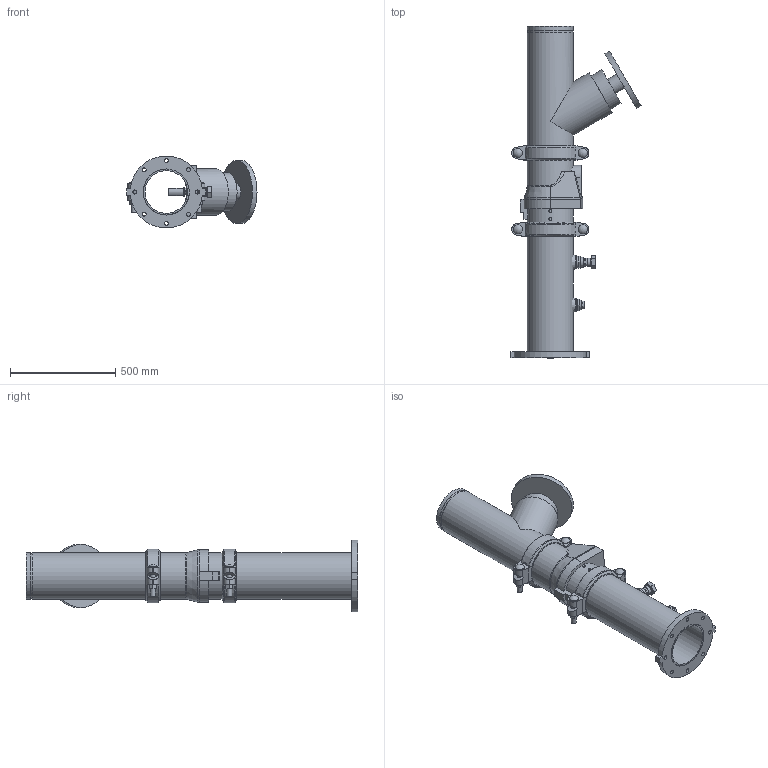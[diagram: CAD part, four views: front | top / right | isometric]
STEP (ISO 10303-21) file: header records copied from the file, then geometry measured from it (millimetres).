
FILE_DESCRIPTION(/* description */ ('VIC DVI PUMP DROP VERT S/383 (OGSxFLG) (S/924-1.25)','CAx-IF Rec.Pracs.---Representation and Presentation of Product Manufacturing Information (PMI)---4.0---2014-10-13'),/* implementation_level */ '2;1');
FILE_NAME(/* name */ 'C:\Users\Public\Documents\Victaulic.Temp\A849\Victaulic_IPS_Vertical DVI_CL 150_Series 383 (OGSxFLG)_924 (1.25)_08.0x08.0 (200x200).stp',/* time_stamp */ '2022-07-25T11:41:49+02:00',/* author */ ('Vjadhav'),/* organization */ ('Victaulic'),/* preprocessor_version */ 'ST-DEVELOPER v18',/* originating_system */ 'Autodesk Inventor 2020',/* authorisation */ '');
FILE_SCHEMA (('AP242_MANAGED_MODEL_BASED_3D_ENGINEERING_MIM_LF { 1 0 10303 442 1 1 4 }'));
Length unit declared in the file: inch
Products named in the file (8): 383_924 (1.25)-08.0x08.0; 741-08.0; Pipe-08.0x08.0; 177N-08.0; 789-08.0; 779-08.0; 924-04.0x01.25; 923-04.0x0.75
Assembly tree (8 placements, depth 2):
  383_924 (1.25)-08.0x08.0
    741-08.0
    Pipe-08.0x08.0
    177N-08.0  x2
    789-08.0
    779-08.0
    924-04.0x01.25
    923-04.0x0.75
Bounding box: 619.12 x 1579.63 x 341.59 mm (x, y, z)
Volume: 26024606 mm3; surface area: 3162485.5 mm2
Topology: 8 solids, 9 shells, 425 faces, 1108 edges, 746 vertices
Faces by surface type: plane 250, cylinder 142, torus 14, cone 13, sphere 4, bspline 2
Full cylindrical faces by diameter (mm): 13.716 x4, 19.05 x8, 21.336 x1, 23.774 x4, 26.67 x2, 38.608 x1, 42.164 x1, 42.85 x4, 45.974 x4, 48.514 x1, 55.626 x2, 76.2 x1, 183.515 x1, 202.717 x3, 206.375 x2, 214.401 x6, 219.075 x16, 299.974 x1
Entity records: 11460 total; most frequent: CARTESIAN_POINT 2352, DIRECTION 1864, ORIENTED_EDGE 1710, EDGE_CURVE 855, AXIS2_PLACEMENT_3D 704, VERTEX_POINT 578, LINE 456, VECTOR 456
